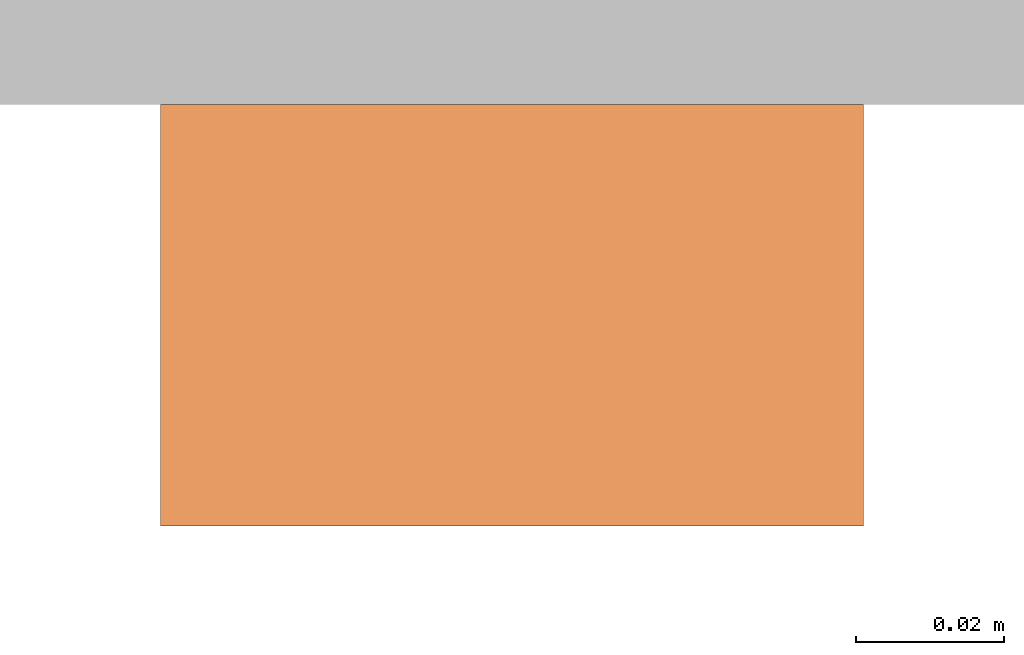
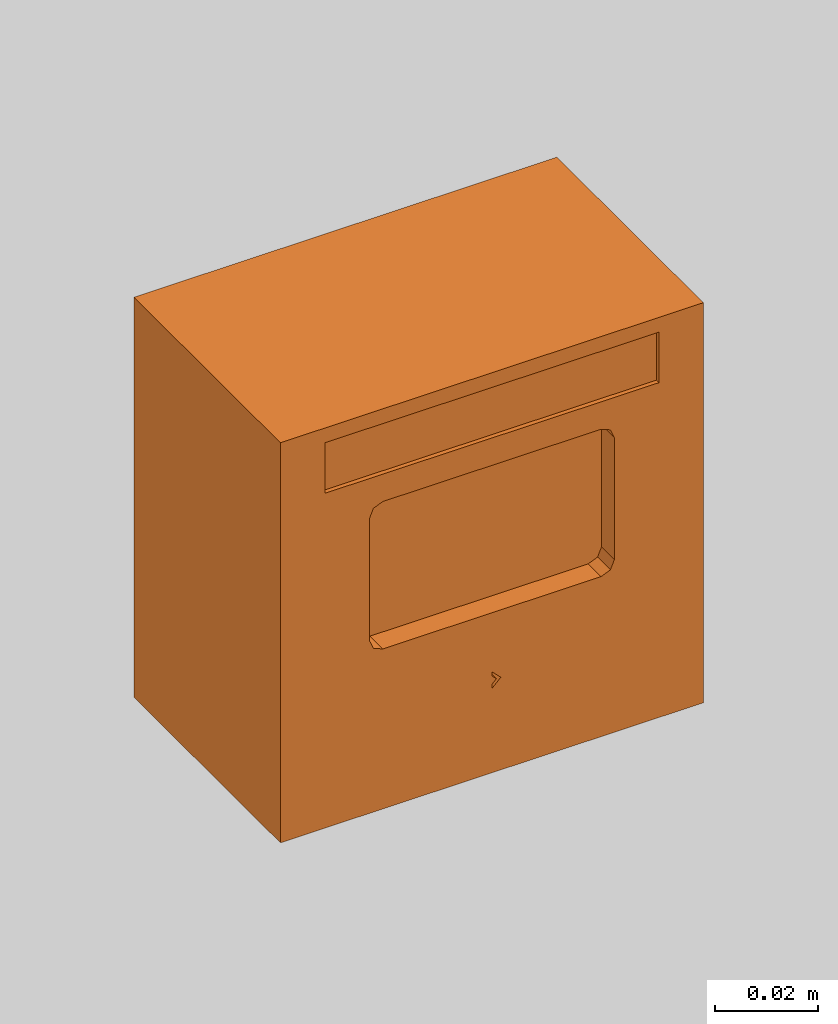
# One storey, part 95 of 197: 1 proxy.
"""IFC2X3 building model written with IfcOpenShell, lengths in metres."""

import ifcopenshell
import ifcopenshell.guid

model = None  # the IFC model being written
_history = None  # IfcOwnerHistory: only IFC2X3 demands one
_inside = {}  # id of a spatial element -> (the spatial element, [elements in it])
_under = {}  # id of a project, library or spatial element -> (it, [spatial elements below it])
_declared = {}  # id of a project -> (the project, [libraries it declares])
_typed = {}  # id of a type object -> (the type object, [elements of that type])
_made_of = {}  # id of a material, layer set ... -> (it, [elements and type objects made of it])


def new_model(schema):
    """Start an empty IFC model of exactly this schema.

    Asked for "IFC4X3", IfcOpenShell would pick the latest addendum, in which some entities
    have other attributes; the version numbers below select the first issue.
    IFC2X3 requires an IfcOwnerHistory on every rooted entity: one is made here for all.
    """
    global model, _history
    if schema == "IFC4X3":
        model = ifcopenshell.file(schema_version=(4, 3, 0, 0))
    else:
        model = ifcopenshell.file(schema=schema)
    _inside.clear()
    _under.clear()
    _declared.clear()
    _typed.clear()
    _made_of.clear()
    _history = None
    if model.schema == "IFC2X3":
        org = make("IfcOrganization", Name="unknown")
        user = make(
            "IfcPersonAndOrganization",
            ThePerson=make("IfcPerson", FamilyName="unknown"),
            TheOrganization=org,
        )
        app = make(
            "IfcApplication",
            ApplicationDeveloper=org,
            Version="unknown",
            ApplicationFullName="unknown",
            ApplicationIdentifier="unknown",
        )
        _history = make(
            "IfcOwnerHistory",
            OwningUser=user,
            OwningApplication=app,
            ChangeAction="ADDED",
            CreationDate=0,
        )
    return model


def make(cls, **values):
    """One entity of the class cls with the attributes given. An attribute that is None is left unset."""
    return model.create_entity(
        cls, **{name: value for name, value in values.items() if value is not None}
    )


def entity(cls, *values):
    """Any entity or typed value of the class cls, its attributes in the order of the schema. None: left unset."""
    e = model.create_entity(cls)
    for i, value in enumerate(values):
        if value is not None:
            e[i] = value
    return e


def rooted(cls, **values):
    """An entity with a GlobalId (a new one), such as an element, a storey or a relation."""
    return make(cls, GlobalId=ifcopenshell.guid.new(), OwnerHistory=_history, **values)


def si_unit(unit_type, name, prefix=None):
    """IfcSIUnit, for example si_unit("LENGTHUNIT", "METRE", prefix="MILLI")."""
    return make("IfcSIUnit", UnitType=unit_type, Prefix=prefix, Name=name)


def converted_unit(unit_type, name, factor, base, dimensions=None, offset=None):
    """IfcConversionBasedUnit, such as the inch: factor (a typed value) times the base unit."""
    return make(
        "IfcConversionBasedUnit"
        if offset is None
        else "IfcConversionBasedUnitWithOffset",
        ConversionOffset=offset,
        Dimensions=None
        if dimensions is None
        else entity("IfcDimensionalExponents", *dimensions),
        UnitType=unit_type,
        Name=name,
        ConversionFactor=make(
            "IfcMeasureWithUnit", ValueComponent=factor, UnitComponent=base
        ),
    )


def assignment(units):
    """IfcUnitAssignment: the units of a project."""
    return None if units is None else make("IfcUnitAssignment", Units=units)


def point(xyz):
    """IfcCartesianPoint."""
    return None if xyz is None else make("IfcCartesianPoint", Coordinates=xyz)


def direction(xyz):
    """IfcDirection."""
    return None if xyz is None else make("IfcDirection", DirectionRatios=xyz)


def frame(location, z_axis=None, x_axis=None):
    """IfcAxis2Placement3D, a coordinate frame: its origin and axes. An axis left out is left unset."""
    return make(
        "IfcAxis2Placement3D",
        Location=point(location),
        Axis=direction(z_axis),
        RefDirection=direction(x_axis),
    )


def origin():
    """The frame at (0, 0, 0) with its axes left unset."""
    return frame((0.0, 0.0, 0.0))


def place(relative_to, where):
    """IfcLocalPlacement: puts the frame where relative to a parent placement (None: the world)."""
    return make(
        "IfcLocalPlacement", PlacementRelTo=relative_to, RelativePlacement=where
    )


def context(
    kind, dimensions, precision=None, world=None, true_north=None, identifier=None
):
    """IfcGeometricRepresentationContext, for example the 3D "Model" context."""
    return make(
        "IfcGeometricRepresentationContext",
        ContextIdentifier=identifier,
        ContextType=kind,
        CoordinateSpaceDimension=dimensions,
        Precision=precision,
        WorldCoordinateSystem=world,
        TrueNorth=true_north,
    )


def subcontext(parent, identifier, kind, view, scale=None):
    """IfcGeometricRepresentationSubContext, for example "Body" below "Model"."""
    return make(
        "IfcGeometricRepresentationSubContext",
        ContextIdentifier=identifier,
        ContextType=kind,
        ParentContext=parent,
        TargetScale=scale,
        TargetView=view,
    )


def project(units=None, contexts=None):
    """IfcProject with its units and contexts."""
    return rooted(
        "IfcProject",
        Name="project",
        RepresentationContexts=contexts,
        UnitsInContext=assignment(units),
    )


def spatial(cls, under=None, at=None, **own):
    """A site, building, storey or space (cls), placed at a placement, below another one or the project."""
    s = rooted(cls, ObjectPlacement=at, **own)
    if under is not None:
        _under.setdefault(under.id(), (under, []))[1].append(s)
    return s


def faces_of(points, faces, orient=None, outer=None):
    """IfcFace entities. A face is a list of loops; a loop is a list of indices into points, from 0.

    orient and outer hold one flag for each loop. By default every Orientation is true, the
    first loop of a face is its IfcFaceOuterBound and the others are IfcFaceBound.
    """
    made = []
    for i, loops in enumerate(faces):
        bounds = []
        for j, loop in enumerate(loops):
            is_outer = j == 0 if outer is None else outer[i][j]
            bounds.append(
                make(
                    "IfcFaceOuterBound" if is_outer else "IfcFaceBound",
                    Bound=make("IfcPolyLoop", Polygon=[points[k] for k in loop]),
                    Orientation=True if orient is None else orient[i][j],
                )
            )
        made.append(make("IfcFace", Bounds=bounds))
    return made


def faceted_brep(points, faces, orient=None, outer=None, voids=None):
    """IfcFacetedBrep: a solid bounded by flat faces; with voids (closed shells), ...WithVoids."""
    shared = [point(p) for p in points]
    hull = make("IfcClosedShell", CfsFaces=faces_of(shared, faces, orient, outer))
    if voids is None:
        return make("IfcFacetedBrep", Outer=hull)
    return make(
        "IfcFacetedBrepWithVoids",
        Outer=hull,
        Voids=[
            make(cls, CfsFaces=faces_of(shared, fs, o, b)) for cls, fs, o, b in voids
        ],
    )


def shape(context_of_items, identifier, shape_type, items):
    """IfcShapeRepresentation: the items that make up one representation, for example the "Body"."""
    return make(
        "IfcShapeRepresentation",
        ContextOfItems=context_of_items,
        RepresentationIdentifier=identifier,
        RepresentationType=shape_type,
        Items=items,
    )


def source(mapping_origin, context_of_items, identifier, shape_type, items):
    """IfcRepresentationMap: a shape defined once, which mapped items show again and again."""
    return make(
        "IfcRepresentationMap",
        MappingOrigin=mapping_origin,
        MappedRepresentation=shape(context_of_items, identifier, shape_type, items),
    )


def transform(
    local_origin,
    x_axis=None,
    y_axis=None,
    z_axis=None,
    scale=None,
    scale2=None,
    scale3=None,
    uniform=True,
):
    """IfcCartesianTransformationOperator3D, or its non-uniform kind. x_axis, y_axis, z_axis: its Axis1, 2, 3."""
    if uniform:
        return make(
            "IfcCartesianTransformationOperator3D",
            Axis1=direction(x_axis),
            Axis2=direction(y_axis),
            LocalOrigin=point(local_origin),
            Scale=scale,
            Axis3=direction(z_axis),
        )
    return make(
        "IfcCartesianTransformationOperator3DnonUniform",
        Axis1=direction(x_axis),
        Axis2=direction(y_axis),
        LocalOrigin=point(local_origin),
        Scale=scale,
        Axis3=direction(z_axis),
        Scale2=scale2,
        Scale3=scale3,
    )


def mapped(mapping_source, mapping_target):
    """IfcMappedItem: shows the shape of a source again, moved by a transform."""
    return make(
        "IfcMappedItem", MappingSource=mapping_source, MappingTarget=mapping_target
    )


def material(Name=None, Category=None):
    """IfcMaterial."""
    return make("IfcMaterial", Name=Name, Category=Category)


def material_list(materials):
    """IfcMaterialList."""
    return make("IfcMaterialList", Materials=materials)


def made_of(thing, what):
    """Note that an element or type object is made of a material, layer set ...; save() writes the relation."""
    if what is not None:
        _made_of.setdefault(what.id(), (what, []))[1].append(thing)
    return thing


def type_object(cls, material=None, **own):
    """A type object (cls), such as IfcWallType, which elements share."""
    return made_of(rooted(cls, **own), material)


def type_shapes(of_type, sources):
    """Give a type object the sources (RepresentationMaps) that its elements show as mapped items."""
    of_type.RepresentationMaps = sources


def element(
    cls,
    number,
    at=None,
    inside=None,
    cuts=None,
    type_object=None,
    material=None,
    context=None,
    identifier="Body",
    shape_type=None,
    held_by="IfcProductDefinitionShape",
    body=None,
    shapes=None,
    **own,
):
    """One element of the class cls, such as IfcWall. Its Tag is "e" and its number.

    at: its placement. inside: the storey or other place that contains it. cuts: it is an
    opening in that element (IfcRelVoidsElement). A single representation is given by context,
    identifier, shape_type and body (its items); several are given by shapes. held_by: the class
    of the entity that holds the representations. save() writes the other relations.
    """
    e = rooted(cls, Tag="e%d" % number, ObjectPlacement=at, **own)
    if body is not None:
        shapes = [shape(context, identifier, shape_type, body)]
    if shapes is not None:
        e.Representation = make(held_by, Representations=shapes)
    if inside is not None:
        _inside.setdefault(inside.id(), (inside, []))[1].append(e)
    if cuts is not None:
        rooted(
            "IfcRelVoidsElement", RelatingBuildingElement=cuts, RelatedOpeningElement=e
        )
    if type_object is not None:
        _typed.setdefault(type_object.id(), (type_object, []))[1].append(e)
    return made_of(e, material)


def aggregate(whole, parts):
    """IfcRelAggregates: a whole, such as a stair, and the parts it consists of."""
    return rooted("IfcRelAggregates", RelatingObject=whole, RelatedObjects=parts)


def save(model, path):
    """Write the relations noted so far, then the file.

    IfcRelAggregates (storeys below a building ...), IfcRelContainedInSpatialStructure (elements
    in a storey), IfcRelDefinesByType, IfcRelAssociatesMaterial and IfcRelDeclares: one each for
    every whole, place, type object, material and project.
    """
    for whole, parts in _under.values():
        aggregate(whole, parts)
    for where, things in _inside.values():
        rooted(
            "IfcRelContainedInSpatialStructure",
            RelatedElements=things,
            RelatingStructure=where,
        )
    for kind, things in _typed.values():
        rooted("IfcRelDefinesByType", RelatedObjects=things, RelatingType=kind)
    for what, things in _made_of.values():
        rooted("IfcRelAssociatesMaterial", RelatedObjects=things, RelatingMaterial=what)
    for by, libraries in _declared.values():
        rooted("IfcRelDeclares", RelatingContext=by, RelatedDefinitions=libraries)
    model.write(path)


model = new_model("IFC2X3")

# Units and contexts
model_context = context("Model", 3, precision=1e-05, world=origin(), true_north=direction((6.123031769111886e-17, 1.0)))
body_context = subcontext(model_context, "Body", "Model", "MODEL_VIEW")
ifc_project = project(units=[si_unit("LENGTHUNIT", "METRE"), converted_unit("PLANEANGLEUNIT", "DEGREE", entity("IfcPlaneAngleMeasure", 0.017453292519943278), si_unit("PLANEANGLEUNIT", "RADIAN"), dimensions=[0, 0, 0, 0, 0, 0, 0]), si_unit("AREAUNIT", "SQUARE_METRE")], contexts=[model_context])

# Site, building, storey
site_placement = place(None, origin())
site = spatial("IfcSite", under=ifc_project, at=site_placement, Name="Default", CompositionType="ELEMENT")
building_placement = place(site_placement, origin())
building = spatial("IfcBuilding", under=site, at=building_placement, CompositionType="ELEMENT")
storey_placement = place(building_placement, origin())
storey = spatial("IfcBuildingStorey", under=building, at=storey_placement, Name="Niveau 0", CompositionType="ELEMENT", Elevation=0.0)

# Proxy
ifc_material_1 = material(Name="BETCE-DOIGT BLANC")
ifc_material_2 = material(Name="BETCE-DM VERT")
ifc_material_list = material_list([ifc_material_1, ifc_material_2])
building_element_proxy_type = type_object("IfcBuildingElementProxyType", Name="Déclencheur manuel saillie controle acces:DM VERT", PredefinedType="NOTDEFINED", material=ifc_material_list)
shared_shape = source(origin(), body_context, "Body", "Brep", [
    faceted_brep([(0.024500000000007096, -0.052000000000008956, 0.03800000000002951), (0.026621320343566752, -0.05200000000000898, 0.038878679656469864), (0.027500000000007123, -0.052000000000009, 0.0410000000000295), (0.027500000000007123, -0.0520000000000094, 0.07000000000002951), (0.026621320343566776, -0.05200000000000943, 0.07212132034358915), (0.024500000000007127, -0.05200000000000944, 0.07300000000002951), (-0.02449999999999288, -0.05200000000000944, 0.07300000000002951), (-0.026621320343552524, -0.05200000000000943, 0.07212132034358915), (-0.027499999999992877, -0.0520000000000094, 0.07000000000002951), (-0.027499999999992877, -0.052000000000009, 0.04100000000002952), (-0.026621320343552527, -0.05200000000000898, 0.03887867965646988), (-0.024499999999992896, -0.052000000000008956, 0.03800000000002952), (0.024500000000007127, -0.05000000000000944, 0.07300000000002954), (0.026621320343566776, -0.050000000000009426, 0.07212132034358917), (0.027500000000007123, -0.05000000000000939, 0.07000000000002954), (0.027500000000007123, -0.050000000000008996, 0.04100000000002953), (0.026621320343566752, -0.050000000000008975, 0.038878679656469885), (0.024500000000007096, -0.050000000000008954, 0.03800000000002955), (-0.024499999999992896, -0.050000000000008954, 0.03800000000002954), (-0.026621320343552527, -0.050000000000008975, 0.038878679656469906), (-0.027499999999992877, -0.050000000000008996, 0.04100000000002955), (-0.027499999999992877, -0.05000000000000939, 0.07000000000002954), (-0.026621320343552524, -0.050000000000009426, 0.07212132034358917), (-0.02449999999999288, -0.05000000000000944, 0.07300000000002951)], [[[0, 1, 2, 3, 4, 5, 6, 7, 8, 9, 10, 11]], [[12, 13, 14, 15, 16, 17, 18, 19, 20, 21, 22, 23]], [[9, 20, 19, 10]], [[19, 18, 11, 10]], [[0, 11, 18, 17]], [[0, 17, 16, 1]], [[16, 15, 2, 1]], [[3, 2, 15, 14]], [[3, 14, 13, 4]], [[13, 12, 5, 4]], [[6, 5, 12, 23]], [[6, 23, 22, 7]], [[22, 21, 8, 7]], [[9, 8, 21, 20]]]),
    faceted_brep([(0.047500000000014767, -0.057000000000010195, 0.09500000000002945), (0.03750000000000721, -0.05700000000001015, 0.09150320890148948), (0.03750000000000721, -0.05700000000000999, 0.07950320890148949), (-0.037499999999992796, -0.05700000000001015, 0.09150320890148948), (0.047500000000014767, -0.057000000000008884, 0.0), (-0.04749999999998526, -0.057000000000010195, 0.09500000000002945), (-0.037499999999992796, -0.05700000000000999, 0.07950320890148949), (-0.047499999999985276, -0.057000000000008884, 0.0), (-0.027499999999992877, -0.05700000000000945, 0.04100000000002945), (-0.026621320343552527, -0.05700000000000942, 0.03887867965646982), (-0.0244999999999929, -0.05700000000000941, 0.03800000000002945), (0.0, -0.057000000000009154, 0.02000000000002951), (0.027500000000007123, -0.05700000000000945, 0.041000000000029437), (0.02662132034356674, -0.05700000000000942, 0.03887867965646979), (0.02450000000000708, -0.05700000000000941, 0.03800000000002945), (0.002000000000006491, -0.05700000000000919, 0.022000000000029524), (0.0, -0.05700000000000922, 0.02400000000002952), (0.0, -0.057000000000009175, 0.021000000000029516), (0.0, -0.057000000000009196, 0.023000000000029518), (0.0010000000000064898, -0.05700000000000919, 0.022000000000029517), (-0.027499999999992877, -0.05700000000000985, 0.07000000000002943), (-0.026621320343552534, -0.05700000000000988, 0.07212132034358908), (-0.02449999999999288, -0.05700000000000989, 0.07300000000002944), (0.024500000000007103, -0.05700000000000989, 0.07300000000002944), (0.02662132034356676, -0.05700000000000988, 0.0721213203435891), (0.027500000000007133, -0.05700000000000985, 0.07000000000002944), (-0.047499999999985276, 0.0, 0.0), (-0.04749999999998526, 0.0, 0.09500000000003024), (0.047500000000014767, 0.0, 0.09500000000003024), (0.04750000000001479, 0.0, 0.0), (-0.024499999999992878, -0.05000000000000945, 0.07300000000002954), (-0.026621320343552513, -0.05000000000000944, 0.07212132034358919), (-0.027499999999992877, -0.050000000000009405, 0.07000000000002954), (-0.027499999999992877, -0.050000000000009, 0.04100000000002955), (-0.026621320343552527, -0.050000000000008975, 0.03887867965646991), (-0.0244999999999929, -0.05000000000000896, 0.038000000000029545), (0.024500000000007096, -0.05000000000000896, 0.03800000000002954), (0.026621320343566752, -0.050000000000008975, 0.038878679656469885), (0.027500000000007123, -0.050000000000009, 0.04100000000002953), (0.027500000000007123, -0.050000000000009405, 0.07000000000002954), (0.026621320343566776, -0.05000000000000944, 0.07212132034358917), (0.024500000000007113, -0.05000000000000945, 0.07300000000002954), (0.0010000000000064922, -0.05000000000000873, 0.02200000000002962), (0.0, -0.050000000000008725, 0.021000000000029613), (0.0, -0.05000000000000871, 0.02000000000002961), (0.0020000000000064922, -0.05000000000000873, 0.022000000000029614), (0.0, -0.05000000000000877, 0.024000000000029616), (0.0, -0.05000000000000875, 0.023000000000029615), (0.03750000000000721, -0.05600000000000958, 0.0795032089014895), (0.03750000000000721, -0.05600000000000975, 0.0915032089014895), (-0.037499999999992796, -0.05600000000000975, 0.0915032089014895), (-0.037499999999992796, -0.05600000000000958, 0.0795032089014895)], [[[0, 1, 2]], [[1, 0, 3]], [[0, 2, 4]], [[5, 3, 0]], [[6, 3, 5]], [[6, 5, 7]], [[8, 6, 7]], [[9, 8, 7]], [[7, 10, 9]], [[10, 7, 11]], [[11, 7, 4]], [[12, 4, 2]], [[4, 12, 13]], [[4, 13, 14]], [[4, 15, 11]], [[14, 15, 4]], [[14, 16, 15]], [[11, 17, 10]], [[17, 18, 10]], [[17, 19, 18]], [[18, 16, 10]], [[14, 10, 16]], [[20, 6, 8]], [[20, 21, 6]], [[21, 22, 6]], [[22, 23, 2]], [[6, 22, 2]], [[23, 24, 2]], [[24, 25, 2]], [[2, 25, 12]], [[26, 27, 28, 29]], [[5, 0, 28, 27]], [[7, 5, 27, 26]], [[4, 7, 26, 29]], [[0, 4, 29, 28]], [[30, 31, 32, 33, 34, 35, 36, 37, 38, 39, 40, 41]], [[42, 43, 44, 45, 46, 47]], [[41, 23, 22, 30]], [[21, 31, 30, 22]], [[20, 32, 31, 21]], [[32, 20, 8, 33]], [[9, 34, 33, 8]], [[10, 35, 34, 9]], [[35, 10, 14, 36]], [[13, 37, 36, 14]], [[12, 38, 37, 13]], [[38, 12, 25, 39]], [[24, 40, 39, 25]], [[23, 41, 40, 24]], [[43, 17, 11, 44]], [[46, 16, 18, 47]], [[15, 45, 44, 11]], [[16, 46, 45, 15]], [[18, 19, 42, 47]], [[42, 19, 17, 43]], [[48, 49, 50, 51]], [[49, 1, 3, 50]], [[50, 3, 6, 51]], [[51, 6, 2, 48]], [[48, 2, 1, 49]]]),
])
type_shapes(building_element_proxy_type, [shared_shape])
proxy_placement = place(storey_placement, frame((-513.364595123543, -41.558644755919, 1.0)))
element("IfcBuildingElementProxy", 1, at=proxy_placement, inside=storey, type_object=building_element_proxy_type, material=ifc_material_list, Name="Déclencheur manuel saillie controle acces:DM VERT", ObjectType="Déclencheur manuel saillie controle acces:DM VERT", context=body_context, shape_type="MappedRepresentation", body=[
    mapped(shared_shape, transform((0.0, 0.0, 0.0), scale=1.0)),
])

save(model, "model.ifc")
